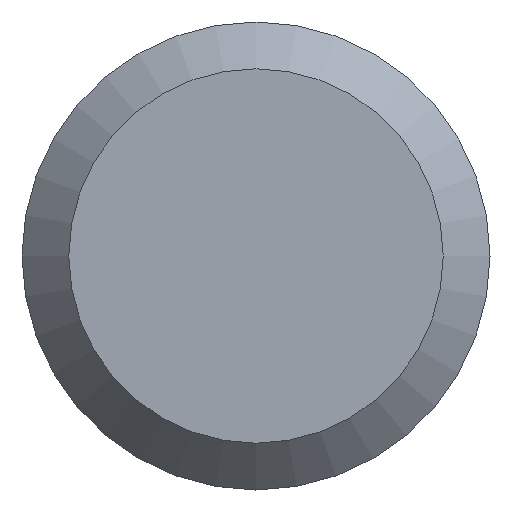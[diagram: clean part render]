
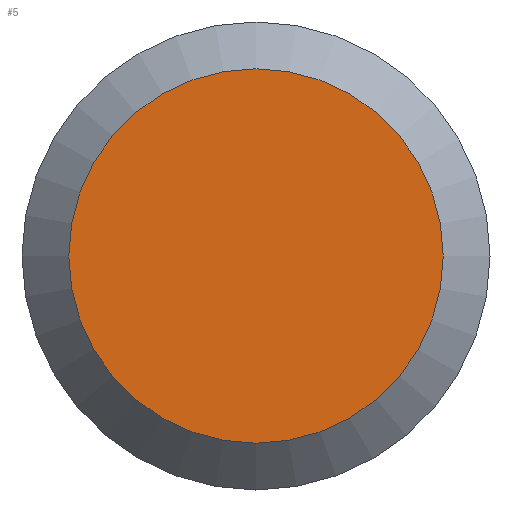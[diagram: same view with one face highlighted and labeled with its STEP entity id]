
A CAD part, left-side view. The second image highlights one B-rep face of the part: STEP entity #5.
In plain terms, the highlighted planar face has unit normal (-1, 0, 0).
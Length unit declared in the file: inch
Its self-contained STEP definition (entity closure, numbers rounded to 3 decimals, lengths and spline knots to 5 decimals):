
#5 = ADVANCED_FACE ( 'NONE', ( #66 ), #7, .F. ) ;
#7 = PLANE ( 'NONE',  #227 ) ;
#20 = EDGE_LOOP ( 'NONE', ( #32 ) ) ;
#32 = ORIENTED_EDGE ( 'NONE', *, *, #115, .T. ) ;
#66 = FACE_OUTER_BOUND ( 'NONE', #20, .T. ) ;
#95 = CARTESIAN_POINT ( 'NONE',  ( 0., 0., 0. ) ) ;
#98 = CIRCLE ( 'NONE', #161, 0.0796 ) ;
#115 = EDGE_CURVE ( 'NONE', #181, #181, #98, .T. ) ;
#150 = DIRECTION ( 'NONE',  ( 1., 0., 0. ) ) ;
#152 = CARTESIAN_POINT ( 'NONE',  ( 0., 0., -0.0796 ) ) ;
#161 = AXIS2_PLACEMENT_3D ( 'NONE', #95, #198, #231 ) ;
#167 = DIRECTION ( 'NONE',  ( 0., 0., -1. ) ) ;
#171 = CARTESIAN_POINT ( 'NONE',  ( 0., 0.0995, 0. ) ) ;
#181 = VERTEX_POINT ( 'NONE', #152 ) ;
#198 = DIRECTION ( 'NONE',  ( -1., 0., 0. ) ) ;
#227 = AXIS2_PLACEMENT_3D ( 'NONE', #171, #150, #167 ) ;
#231 = DIRECTION ( 'NONE',  ( 0., 0., -1. ) ) ;
